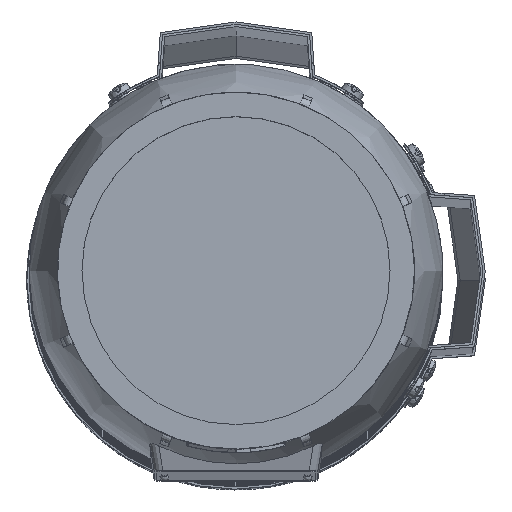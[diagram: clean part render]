
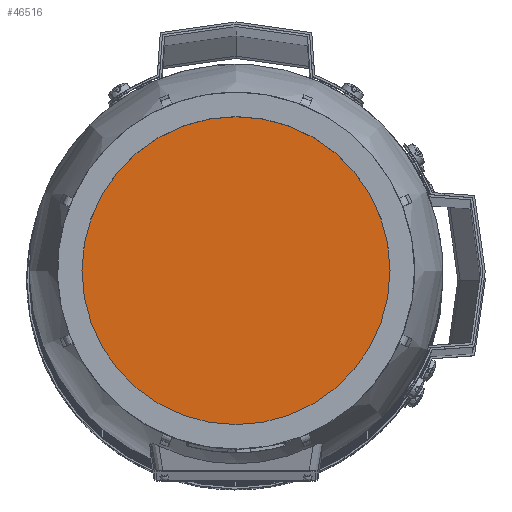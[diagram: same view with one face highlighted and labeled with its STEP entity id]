
A CAD part, top view. The second image highlights one B-rep face of the part: STEP entity #46516.
In plain terms, the highlighted planar face has unit normal (0, 0, 1) as drawn and (0, 1, 0) by its records, which use the part's own axes.
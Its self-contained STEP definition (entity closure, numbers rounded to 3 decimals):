
#9849=ORIENTED_EDGE('',*,*,#23905,.F.);
#23905=EDGE_CURVE('',#30933,#30933,#35663,.T.);
#30933=VERTEX_POINT('',#67166);
#35663=CIRCLE('',#49055,67.736);
#37786=EDGE_LOOP('',(#9849));
#41140=FACE_BOUND('',#37786,.T.);
#44512=PLANE('',#49054);
#46516=ADVANCED_FACE('',(#41140),#44512,.F.);
#49054=AXIS2_PLACEMENT_3D('',#67164,#53659,#53660);
#49055=AXIS2_PLACEMENT_3D('',#67165,#53661,#53662);
#53659=DIRECTION('',(0.,-1.,0.));
#53660=DIRECTION('',(0.,0.,-1.));
#53661=DIRECTION('',(0.,-1.,0.));
#53662=DIRECTION('',(0.,0.,-1.));
#67164=CARTESIAN_POINT('',(0.,154.,0.));
#67165=CARTESIAN_POINT('',(0.,154.,0.));
#67166=CARTESIAN_POINT('',(0.,154.,-67.736));
